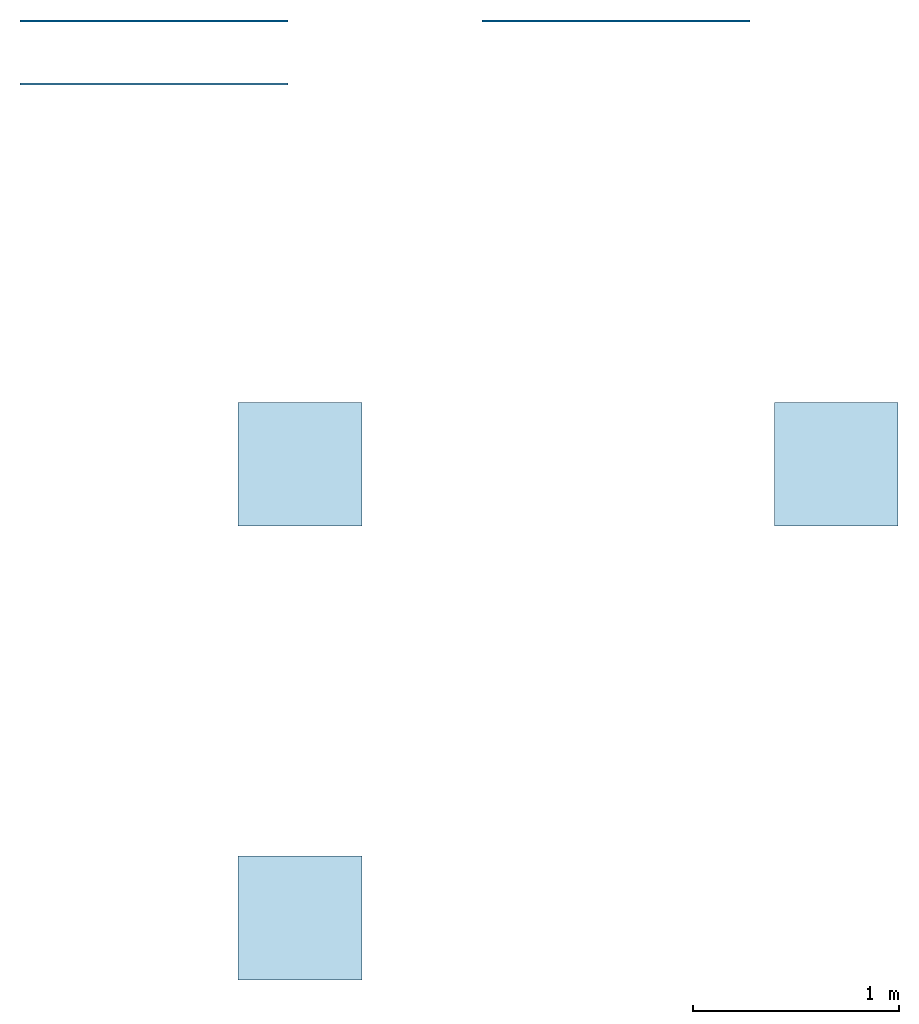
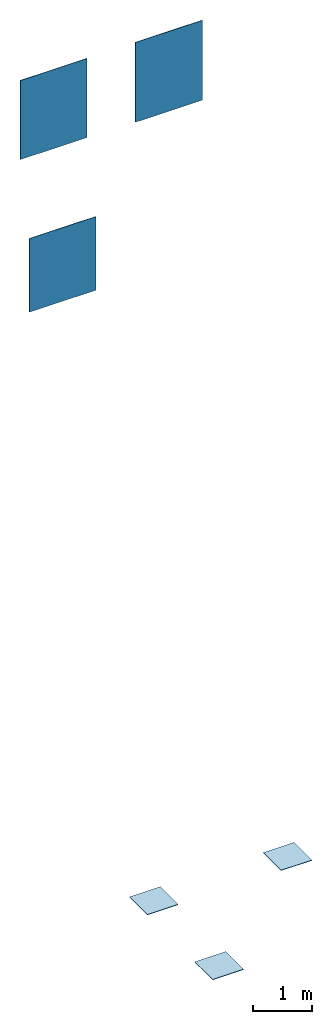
# One storey: 3 slabs, 3 walls.
"""IFC2X3 building model written with IfcOpenShell, lengths in millimetres."""

from ifc_helpers import new_model, entity, si_unit, converted_unit, derived_unit, direction, frame, frame_2d, origin, origin_2d_with_axis, place, context, subcontext, project, spatial, rectangle, extrude, material, layer, layer_set, layer_usage, type_object, element, save


model = new_model("IFC2X3")

# Units and contexts
model_context = context("Model", 3, precision=0.01, world=origin(), true_north=direction((6.12303176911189e-17, 1.0)))
body_context = subcontext(model_context, "Body", "Model", "MODEL_VIEW")
ifc_project = project(units=[si_unit("LENGTHUNIT", "METRE", prefix="MILLI"), si_unit("AREAUNIT", "SQUARE_METRE"), si_unit("VOLUMEUNIT", "CUBIC_METRE"), converted_unit("PLANEANGLEUNIT", "DEGREE", entity("IfcRatioMeasure", 0.0174532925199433), si_unit("PLANEANGLEUNIT", "RADIAN"), dimensions=[0, 0, 0, 0, 0, 0, 0]), si_unit("MASSUNIT", "GRAM", prefix="KILO"), derived_unit("MASSDENSITYUNIT", [(si_unit("MASSUNIT", "GRAM", prefix="KILO"), 1), (si_unit("LENGTHUNIT", "METRE"), -3)]), derived_unit("MOMENTOFINERTIAUNIT", [(si_unit("LENGTHUNIT", "METRE"), 4)]), si_unit("TIMEUNIT", "SECOND"), si_unit("FREQUENCYUNIT", "HERTZ"), si_unit("THERMODYNAMICTEMPERATUREUNIT", "DEGREE_CELSIUS"), derived_unit("THERMALTRANSMITTANCEUNIT", [(si_unit("MASSUNIT", "GRAM", prefix="KILO"), 1), (si_unit("THERMODYNAMICTEMPERATUREUNIT", "KELVIN"), -1), (si_unit("TIMEUNIT", "SECOND"), -3)]), derived_unit("VOLUMETRICFLOWRATEUNIT", [(si_unit("LENGTHUNIT", "METRE"), 3), (si_unit("TIMEUNIT", "SECOND"), -1)]), si_unit("ELECTRICCURRENTUNIT", "AMPERE"), si_unit("ELECTRICVOLTAGEUNIT", "VOLT"), si_unit("POWERUNIT", "WATT"), si_unit("FORCEUNIT", "NEWTON", prefix="KILO"), si_unit("ILLUMINANCEUNIT", "LUX"), si_unit("LUMINOUSFLUXUNIT", "LUMEN"), si_unit("LUMINOUSINTENSITYUNIT", "CANDELA"), derived_unit("USERDEFINED", [(si_unit("MASSUNIT", "GRAM", prefix="KILO"), -1), (si_unit("LENGTHUNIT", "METRE"), -2), (si_unit("TIMEUNIT", "SECOND"), 3), (si_unit("LUMINOUSFLUXUNIT", "LUMEN"), 1)]), derived_unit("LINEARVELOCITYUNIT", [(si_unit("LENGTHUNIT", "METRE"), 1), (si_unit("TIMEUNIT", "SECOND"), -1)]), si_unit("PRESSUREUNIT", "PASCAL"), derived_unit("USERDEFINED", [(si_unit("LENGTHUNIT", "METRE"), -2), (si_unit("MASSUNIT", "GRAM", prefix="KILO"), 1), (si_unit("TIMEUNIT", "SECOND"), -2)]), derived_unit("LINEARFORCEUNIT", [(si_unit("MASSUNIT", "GRAM", prefix="KILO"), 1), (si_unit("LENGTHUNIT", "METRE"), 1), (si_unit("TIMEUNIT", "SECOND"), -2), (si_unit("LENGTHUNIT", "METRE"), -1)]), derived_unit("PLANARFORCEUNIT", [(si_unit("MASSUNIT", "GRAM", prefix="KILO"), 1), (si_unit("LENGTHUNIT", "METRE"), 1), (si_unit("TIMEUNIT", "SECOND"), -2), (si_unit("LENGTHUNIT", "METRE"), -2)])], contexts=[model_context])

# Site, building, storey
site_placement = place(None, origin())
site = spatial("IfcSite", under=ifc_project, at=site_placement, Name="Default", CompositionType="ELEMENT")
building_placement = place(site_placement, origin())
building = spatial("IfcBuilding", under=site, at=building_placement, CompositionType="ELEMENT")
storey_placement = place(building_placement, origin())
storey = spatial("IfcBuildingStorey", under=building, at=storey_placement, Name="Level 0", CompositionType="ELEMENT", Elevation=0.0)

# Slabs
ifc_material_1 = material(Name="Fossil-Beige-60x60 LT85")
ifc_layer_1 = layer(ifc_material_1, 9.0)
ifc_material_2 = material(Name="<Unnamed>")
ifc_layer_2 = layer(ifc_material_2, 1.0)
ifc_layer_set_1 = layer_set([ifc_layer_1, ifc_layer_2], Name="Floor:Floor_Tiles_Refin-Fossil-Beige-60x60 LT85")
ifc_layer_usage_1 = layer_usage(ifc_layer_set_1, "AXIS3", "POSITIVE", 0.0)
slab_type_1 = type_object("IfcSlabType", Name="Floor:Floor_Tiles_Refin-Fossil-Beige-60x60 LT85", PredefinedType="FLOOR", material=ifc_layer_set_1)
slab_1_placement = place(storey_placement, origin())
element("IfcSlab", 1, at=slab_1_placement, inside=storey, type_object=slab_type_1, material=ifc_layer_usage_1, Name="Floor:Floor_Tiles_Refin-Fossil-Beige-60x60 LT85", ObjectType="Floor:Floor_Tiles_Refin-Fossil-Beige-60x60 LT85", PredefinedType="FLOOR", context=body_context, shape_type="SweptSolid", body=[
    extrude(rectangle(XDim=600.0, YDim=600.0, at=origin_2d_with_axis()), frame((7274.37520617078, 5988.41920639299, 0.0), z_axis=(0.0, 0.0, -1.0), x_axis=(0.0, 1.0, 0.0)), (0.0, 0.0, 1.0), 10.0),
])
ifc_material_3 = material(Name="Fossil-Brown-60x60 LT83")
ifc_layer_3 = layer(ifc_material_3, 9.0)
ifc_layer_4 = layer(ifc_material_2, 1.0)
ifc_layer_set_2 = layer_set([ifc_layer_3, ifc_layer_4], Name="Floor:Floor_Tiles_Refin-Fossil-Brown-60x60 LT83")
ifc_layer_usage_2 = layer_usage(ifc_layer_set_2, "AXIS3", "POSITIVE", 0.0)
slab_type_2 = type_object("IfcSlabType", Name="Floor:Floor_Tiles_Refin-Fossil-Brown-60x60 LT83", PredefinedType="FLOOR", material=ifc_layer_set_2)
slab_2_placement = place(storey_placement, origin())
element("IfcSlab", 2, at=slab_2_placement, inside=storey, type_object=slab_type_2, material=ifc_layer_usage_2, Name="Floor:Floor_Tiles_Refin-Fossil-Brown-60x60 LT83", ObjectType="Floor:Floor_Tiles_Refin-Fossil-Brown-60x60 LT83", PredefinedType="FLOOR", context=body_context, shape_type="SweptSolid", body=[
    extrude(rectangle(XDim=600.0, YDim=600.0, at=frame_2d((0.0, 1.08002495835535e-12), x_axis=(1.0, 0.0))), frame((9874.37520617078, 5988.41920639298, 0.0), z_axis=(0.0, 0.0, -1.0), x_axis=(0.0, 1.0, 0.0)), (0.0, 0.0, 1.0), 10.0),
])
ifc_material_4 = material(Name="Fossil-Grey-60x60 LT84")
ifc_layer_5 = layer(ifc_material_4, 9.0)
ifc_layer_6 = layer(ifc_material_2, 1.0)
ifc_layer_set_3 = layer_set([ifc_layer_5, ifc_layer_6], Name="Floor:Floor_Tiles_Refin-Fossil-Grey-60x60 LT84")
ifc_layer_usage_3 = layer_usage(ifc_layer_set_3, "AXIS3", "POSITIVE", 0.0)
slab_type_3 = type_object("IfcSlabType", Name="Floor:Floor_Tiles_Refin-Fossil-Grey-60x60 LT84", PredefinedType="FLOOR", material=ifc_layer_set_3)
slab_3_placement = place(storey_placement, origin())
element("IfcSlab", 3, at=slab_3_placement, inside=storey, type_object=slab_type_3, material=ifc_layer_usage_3, Name="Floor:Floor_Tiles_Refin-Fossil-Grey-60x60 LT84", ObjectType="Floor:Floor_Tiles_Refin-Fossil-Grey-60x60 LT84", PredefinedType="FLOOR", context=body_context, shape_type="SweptSolid", body=[
    extrude(rectangle(XDim=600.0, YDim=600.0, at=origin_2d_with_axis()), frame((7274.37520617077, 3788.41920639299, 0.0), z_axis=(0.0, 0.0, -1.0), x_axis=(0.0, 1.0, 0.0)), (0.0, 0.0, 1.0), 10.0),
])

# Walls
ifc_layer_7 = layer(ifc_material_2, 1.0)
ifc_layer_8 = layer(ifc_material_3, 9.0)
ifc_layer_set_4 = layer_set([ifc_layer_7, ifc_layer_8], Name="Basic Wall:Wall_Tiles_Refin-Fossil-Brown-60x60 LT83")
ifc_layer_usage_4 = layer_usage(ifc_layer_set_4, "AXIS2", "NEGATIVE", 5.0)
wall_type_1 = type_object("IfcWallType", Name="Basic Wall:Wall_Tiles_Refin-Fossil-Brown-60x60 LT83", PredefinedType="STANDARD", material=ifc_layer_set_4)
wall_1_placement = place(storey_placement, frame((8157.37520617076, 8137.38386313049, 14387.6770443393)))
element("IfcWallStandardCase", 4, at=wall_1_placement, inside=storey, type_object=wall_type_1, material=ifc_layer_usage_4, Name="Basic Wall:Wall_Tiles_Refin-Fossil-Brown-60x60 LT83", ObjectType="Basic Wall:Wall_Tiles_Refin-Fossil-Brown-60x60 LT83", context=body_context, shape_type="SweptSolid", body=[
    extrude(rectangle(XDim=1300.0, YDim=9.99999999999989, at=frame_2d((650.0, 7.63833440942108e-14), x_axis=(-1.0, 0.0))), origin(), (0.0, 0.0, 1.0), 1641.74173522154),
])
ifc_layer_9 = layer(ifc_material_2, 1.0)
ifc_layer_10 = layer(ifc_material_1, 9.0)
ifc_layer_set_5 = layer_set([ifc_layer_9, ifc_layer_10], Name="Basic Wall:Wall_Tiles_Refin-Fossil-Beige-60x60 LT85")
ifc_layer_usage_5 = layer_usage(ifc_layer_set_5, "AXIS2", "NEGATIVE", 5.0)
wall_type_2 = type_object("IfcWallType", Name="Basic Wall:Wall_Tiles_Refin-Fossil-Beige-60x60 LT85", PredefinedType="STANDARD", material=ifc_layer_set_5)
wall_2_placement = place(storey_placement, frame((5917.37520617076, 8137.38386313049, 14403.726734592)))
element("IfcWallStandardCase", 5, at=wall_2_placement, inside=storey, type_object=wall_type_2, material=ifc_layer_usage_5, Name="Basic Wall:Wall_Tiles_Refin-Fossil-Beige-60x60 LT85", ObjectType="Basic Wall:Wall_Tiles_Refin-Fossil-Beige-60x60 LT85", context=body_context, shape_type="SweptSolid", body=[
    extrude(rectangle(XDim=1300.0, YDim=9.99999999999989, at=frame_2d((650.0, 7.63833440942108e-14), x_axis=(-1.0, 0.0))), origin(), (0.0, 0.0, 1.0), 1625.69204496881),
])
ifc_layer_11 = layer(ifc_material_2, 1.0)
ifc_layer_12 = layer(ifc_material_4, 9.0)
ifc_layer_set_6 = layer_set([ifc_layer_11, ifc_layer_12], Name="Basic Wall:Wall_Tiles_Refin-Fossil-Grey-60x60 LT84")
ifc_layer_usage_6 = layer_usage(ifc_layer_set_6, "AXIS2", "NEGATIVE", 5.0)
wall_type_3 = type_object("IfcWallType", Name="Basic Wall:Wall_Tiles_Refin-Fossil-Grey-60x60 LT84", PredefinedType="STANDARD", material=ifc_layer_set_6)
wall_3_placement = place(storey_placement, frame((5917.37520617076, 7832.38386313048, 11452.5436262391)))
element("IfcWallStandardCase", 6, at=wall_3_placement, inside=storey, type_object=wall_type_3, material=ifc_layer_usage_6, Name="Basic Wall:Wall_Tiles_Refin-Fossil-Grey-60x60 LT84", ObjectType="Basic Wall:Wall_Tiles_Refin-Fossil-Grey-60x60 LT84", context=body_context, shape_type="SweptSolid", body=[
    extrude(rectangle(XDim=1300.0, YDim=9.99999999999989, at=frame_2d((650.0, 0.0), x_axis=(-1.0, 0.0))), origin(), (0.0, 0.0, 1.0), 1513.19855655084),
])

save(model, "model.ifc")
